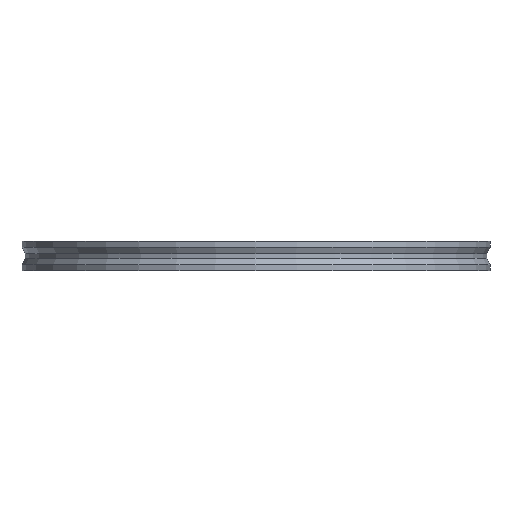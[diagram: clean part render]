
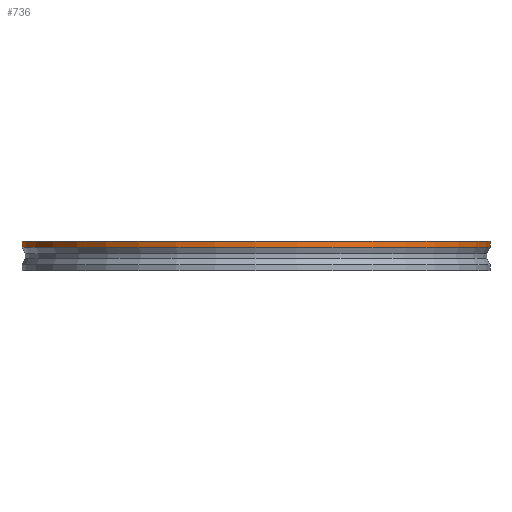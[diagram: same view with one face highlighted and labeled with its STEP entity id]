
A CAD part, front view. The second image highlights one B-rep face of the part: STEP entity #736.
In plain terms, the highlighted cylindrical face has radius 72.5 mm (diameter 145 mm), a partial arc.
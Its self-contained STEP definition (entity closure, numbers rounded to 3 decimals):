
#17 = CARTESIAN_POINT ( 'NONE',  ( -72.5, 0., -2.188 ) ) ;
#42 = VERTEX_POINT ( 'NONE', #588 ) ;
#89 = DIRECTION ( 'NONE',  ( 0., 0., -1. ) ) ;
#91 = LINE ( 'NONE', #17, #175 ) ;
#105 = CARTESIAN_POINT ( 'NONE',  ( 0., 0., 7.171 ) ) ;
#135 = CIRCLE ( 'NONE', #739, 72.5 ) ;
#151 = DIRECTION ( 'NONE',  ( -1., 0., 0. ) ) ;
#152 = EDGE_CURVE ( 'NONE', #166, #506, #349, .T. ) ;
#166 = VERTEX_POINT ( 'NONE', #793 ) ;
#175 = VECTOR ( 'NONE', #214, 1000. ) ;
#184 = CARTESIAN_POINT ( 'NONE',  ( -72.5, 0., 7.171 ) ) ;
#214 = DIRECTION ( 'NONE',  ( 0., 0., -1. ) ) ;
#244 = DIRECTION ( 'NONE',  ( -1., 0., 0. ) ) ;
#248 = AXIS2_PLACEMENT_3D ( 'NONE', #105, #469, #244 ) ;
#302 = EDGE_CURVE ( 'NONE', #856, #506, #91, .T. ) ;
#316 = LINE ( 'NONE', #857, #860 ) ;
#349 = CIRCLE ( 'NONE', #248, 72.5 ) ;
#361 = DIRECTION ( 'NONE',  ( -1., 0., 0. ) ) ;
#381 = CARTESIAN_POINT ( 'NONE',  ( -72.5, 0., 9. ) ) ;
#431 = EDGE_CURVE ( 'NONE', #42, #166, #316, .T. ) ;
#469 = DIRECTION ( 'NONE',  ( 0., 0., -1. ) ) ;
#493 = DIRECTION ( 'NONE',  ( 0., 0., -1. ) ) ;
#506 = VERTEX_POINT ( 'NONE', #184 ) ;
#507 = CARTESIAN_POINT ( 'NONE',  ( 0., 0., -2.188 ) ) ;
#526 = DIRECTION ( 'NONE',  ( 0., 0., -1. ) ) ;
#556 = CARTESIAN_POINT ( 'NONE',  ( 0., 0., 9. ) ) ;
#565 = FACE_OUTER_BOUND ( 'NONE', #676, .T. ) ;
#568 = ORIENTED_EDGE ( 'NONE', *, *, #302, .T. ) ;
#578 = ORIENTED_EDGE ( 'NONE', *, *, #431, .F. ) ;
#588 = CARTESIAN_POINT ( 'NONE',  ( 72.5, 0., 9. ) ) ;
#630 = CYLINDRICAL_SURFACE ( 'NONE', #797, 72.5 ) ;
#676 = EDGE_LOOP ( 'NONE', ( #578, #885, #568, #712 ) ) ;
#685 = EDGE_CURVE ( 'NONE', #42, #856, #135, .T. ) ;
#712 = ORIENTED_EDGE ( 'NONE', *, *, #152, .F. ) ;
#736 = ADVANCED_FACE ( 'NONE', ( #565 ), #630, .T. ) ;
#739 = AXIS2_PLACEMENT_3D ( 'NONE', #556, #493, #151 ) ;
#793 = CARTESIAN_POINT ( 'NONE',  ( 72.5, 0., 7.171 ) ) ;
#797 = AXIS2_PLACEMENT_3D ( 'NONE', #507, #89, #361 ) ;
#856 = VERTEX_POINT ( 'NONE', #381 ) ;
#857 = CARTESIAN_POINT ( 'NONE',  ( 72.5, 0., -2.188 ) ) ;
#860 = VECTOR ( 'NONE', #526, 1000. ) ;
#885 = ORIENTED_EDGE ( 'NONE', *, *, #685, .T. ) ;
